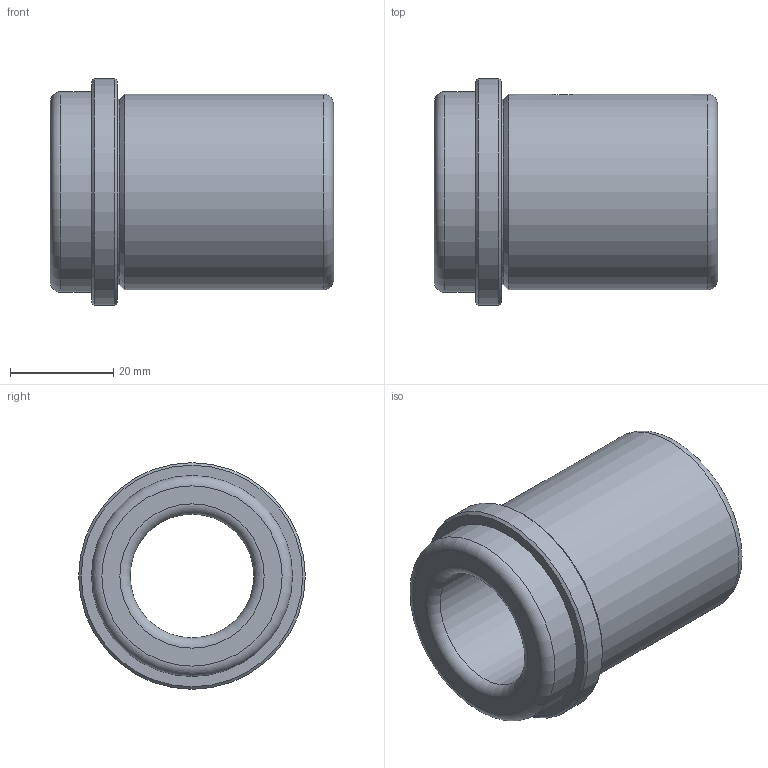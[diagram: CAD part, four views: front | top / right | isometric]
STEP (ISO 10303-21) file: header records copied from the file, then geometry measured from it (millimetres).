
FILE_DESCRIPTION( ( 'STEP AP214' ), '1' );
FILE_NAME( 'p:/temp/worker_1048/temp/exporttempdir_8880_198_XVGJf/format_0/WZ - 4032 24 x 55.stp', '2020-12-03T19:41:33', ( 'License CC BY-ND 4.0' ), ( 'CADENAS' ), ' ', 'PARTsolutions', ' ' );
FILE_SCHEMA( ( 'AUTOMOTIVE_DESIGN { 1 0 10303 214 1 1 1 1 }' ) );
Length unit declared in the file: millimetre
Products named in the file (1): _WZ - 4032 24 x 55
Bounding box: 55 x 44 x 44 mm (x, y, z)
Volume: 39066.5 mm3; surface area: 12944.6 mm2
Topology: 1 solids, 1 shells, 19 faces, 34 edges, 20 vertices
Faces by surface type: cylinder 6, plane 5, torus 4, cone 4
Full cylindrical faces by diameter (mm): 5 x1, 24 x1, 36 x1, 38 x1, 39 x1, 44 x1
Entity records: 682 total; most frequent: CARTESIAN_POINT 178, DIRECTION 76, EDGE_LOOP 40, ORIENTED_EDGE 40, AXIS2_PLACEMENT_3D 38, FACE_OUTER_BOUND 29, EDGE_CURVE 20, VERTEX_POINT 20
